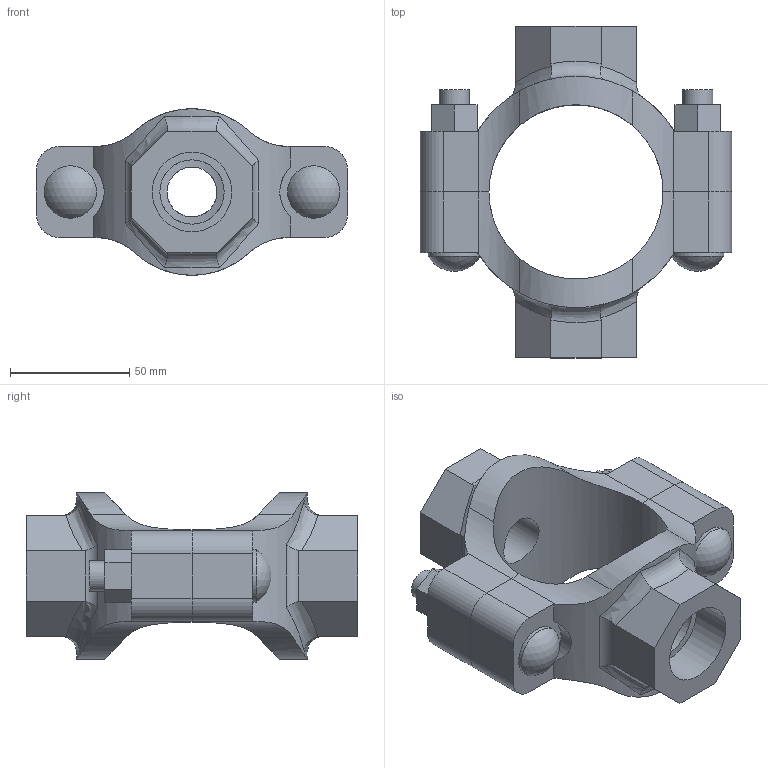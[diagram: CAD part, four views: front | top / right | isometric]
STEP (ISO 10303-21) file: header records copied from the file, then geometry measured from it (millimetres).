
FILE_DESCRIPTION(/* description */ ('VIC MECH-T BRANCH OUTLET CROSS STYLE 920N (THD)','CAx-IF Rec.Pracs.---Representation and Presentation of Product Manufacturing Information (PMI)---4.0---2014-10-13'),/* implementation_level */ '2;1');
FILE_NAME(/* name */ 'C:\Users\Vjadhav\AppData\Roaming\Autodesk\ApplicationPlugins\Back Up\Victaulic_IPS_Mechanical-Cross Outlet_Style 920N (FPT)\Victaulic_IPS_Mechanical-Cross Outlet_02.5x0.75x01.0 (65x20x25).stp',/* time_stamp */ '2020-08-06T18:56:33+05:00',/* author */ ('Vjadhav'),/* organization */ ('Victaulic'),/* preprocessor_version */ 'ST-DEVELOPER v17.2',/* originating_system */ 'Autodesk Inventor 2019',/* authorisation */ '');
FILE_SCHEMA (('AP242_MANAGED_MODEL_BASED_3D_ENGINEERING_MIM_LF { 1 0 10303 442 1 1 4 }'));
Length unit declared in the file: inch
Products named in the file (3): 920NT-02.5x0.75x01.0; 920NT-02.5x0.75; 920NT-02.5x01.0
Assembly tree (2 placements, depth 2):
  920NT-02.5x0.75x01.0
    920NT-02.5x0.75
    920NT-02.5x01.0
Bounding box: 130.56 x 139.19 x 69.84 mm (x, y, z)
Volume: 288840.2 mm3; surface area: 67780.1 mm2
Topology: 2 solids, 2 shells, 132 faces, 350 edges, 236 vertices
Faces by surface type: plane 68, cylinder 50, bspline 8, torus 4, sphere 2
Full cylindrical faces by diameter (mm): 12.7 x4, 20.93 x1, 21.982 x2, 26.67 x1, 26.987 x1, 33.401 x1
Entity records: 5070 total; most frequent: CARTESIAN_POINT 1557, ORIENTED_EDGE 700, DIRECTION 648, EDGE_CURVE 350, VERTEX_POINT 236, AXIS2_PLACEMENT_3D 231, LINE 186, VECTOR 186
